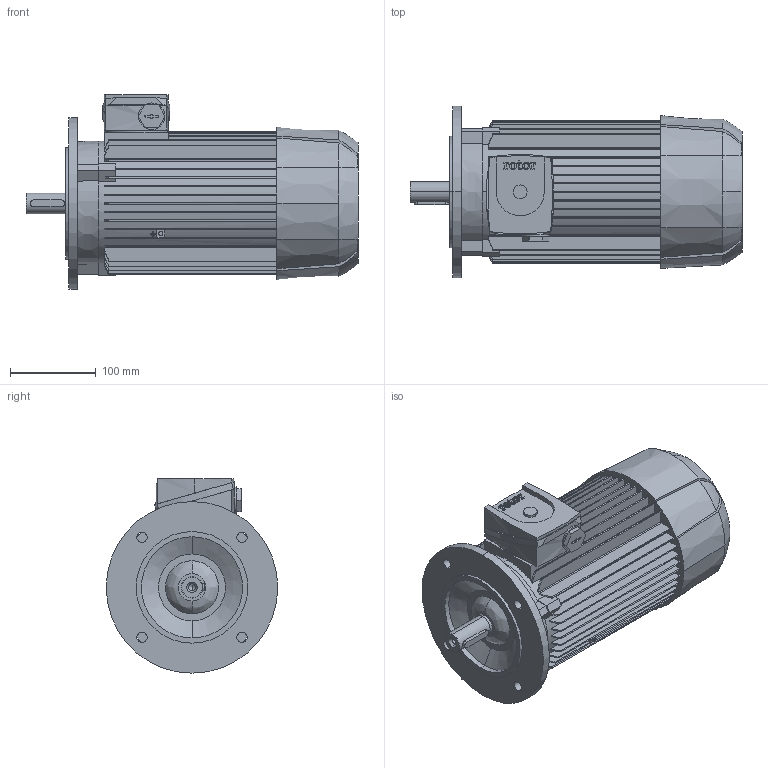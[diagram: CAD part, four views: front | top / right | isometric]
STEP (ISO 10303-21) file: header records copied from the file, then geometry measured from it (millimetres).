
FILE_DESCRIPTION (( 'STEP AP203' ), '1' );
FILE_NAME ('6RN90L02E26 IM3041.STEP', '2017-01-17T14:32:29', ( 'rotor' ), ( 'Hewlett-Packard Company' ), 'SwSTEP 2.0', 'SolidWorks 2015', '' );
FILE_SCHEMA (( 'CONFIG_CONTROL_DESIGN' ));
Length unit declared in the file: millimetre
Products named in the file (1): 6RN90L02E26 IM3041
Bounding box: 387 x 200 x 226.5 mm (x, y, z)
Volume: 6725417.4 mm3; surface area: 481039.3 mm2
Topology: 1 solids, 1 shells, 572 faces, 1605 edges, 1059 vertices
Faces by surface type: plane 331, cylinder 122, bspline 102, cone 17
Entity records: 21488 total; most frequent: CARTESIAN_POINT 7216, ORIENTED_EDGE 3206, DIRECTION 2651, EDGE_CURVE 1603, VERTEX_POINT 1059, VECTOR 897, LINE 897, AXIS2_PLACEMENT_3D 877
